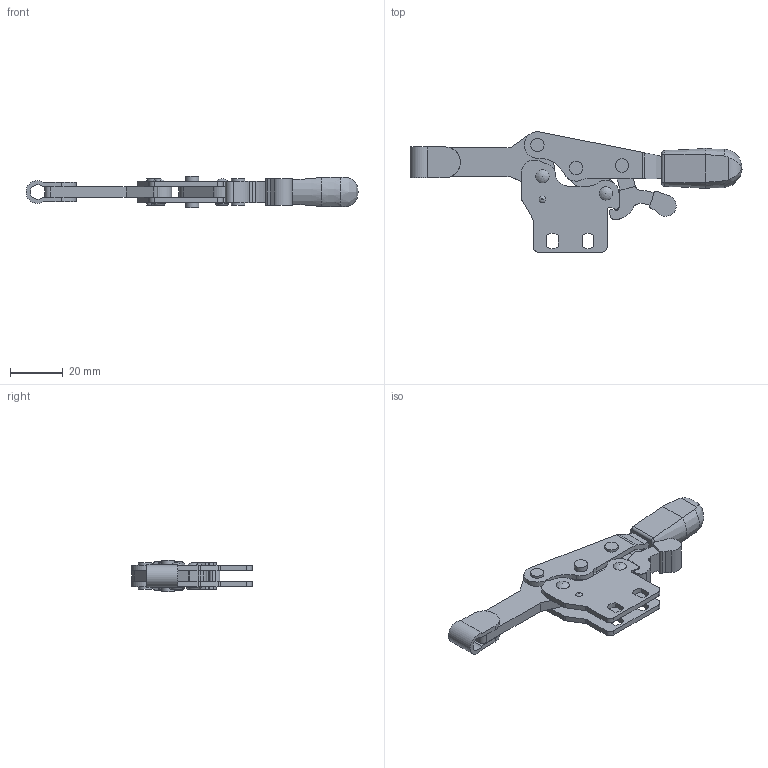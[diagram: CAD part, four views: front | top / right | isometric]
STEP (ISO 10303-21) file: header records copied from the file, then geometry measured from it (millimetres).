
FILE_DESCRIPTION( ( 'STEP AP203' ), '1' );
FILE_NAME( 'C:/Temp/Ganter_Step_05_03_2020/data/2_4/gn_820_4/gn_820_4_st/Toggle clamp GN 820.4-75-PL (closed).stp', '2020-03-13T05:53:34', ( 'License CC BY-ND 4.0' ), ( 'CADENAS' ), ' ', 'PARTsolutions', ' ' );
FILE_SCHEMA( ( 'CONFIG_CONTROL_DESIGN' ) );
Length unit declared in the file: millimetre
Products named in the file (6): Toggle clamp GN 820.4-75-PL (closed); _Toggle clamp GN 820.4-75-PL-1; _Toggle clamp GN 820.4-75-PL (1)-2; _Toggle clamp GN 820.4-75-PL (1)-3; _Toggle clamp GN 820.4-75-PL (1)-4; _Toggle clamp GN 820.4-75-PL-5
Assembly tree (5 placements, depth 2):
  Toggle clamp GN 820.4-75-PL (closed)
    _Toggle clamp GN 820.4-75-PL-1
    _Toggle clamp GN 820.4-75-PL (1)-2
    _Toggle clamp GN 820.4-75-PL (1)-3
    _Toggle clamp GN 820.4-75-PL (1)-4
    _Toggle clamp GN 820.4-75-PL-5
Bounding box: 125.58 x 45.54 x 12 mm (x, y, z)
Volume: 15677.7 mm3; surface area: 13004.3 mm2
Topology: 5 solids, 5 shells, 206 faces, 557 edges, 372 vertices
Faces by surface type: plane 101, cylinder 92, bspline 5, torus 4, cone 4
Full cylindrical faces by diameter (mm): 1 x1, 3.8 x4, 5 x15
Entity records: 6774 total; most frequent: CARTESIAN_POINT 1371, DIRECTION 1122, ORIENTED_EDGE 1030, EDGE_CURVE 515, AXIS2_PLACEMENT_3D 418, VERTEX_POINT 359, LINE 286, VECTOR 286
